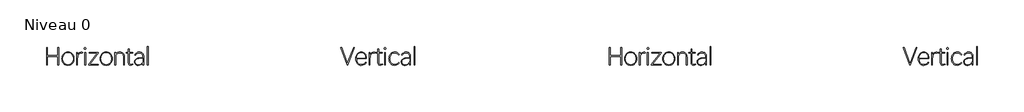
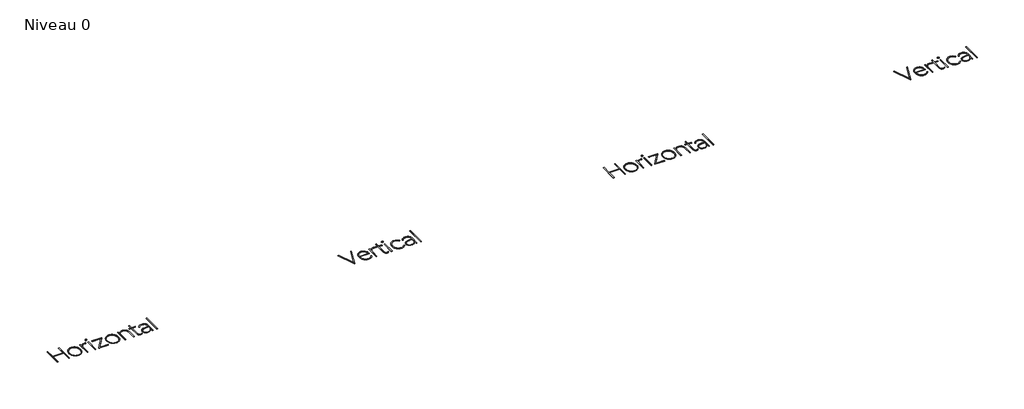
# One storey, part 10 of 11: 4 proxies.
"""IFC4 building model written with IfcOpenShell, lengths in millimetres."""

from ifc_helpers import new_model, si_unit, origin, origin_with_axes, place, context, project, spatial, polyline, outline, extrude, element, save

model = new_model("IFC4")

# Units and contexts
model_context = context("Model", 3, world=origin())
ifc_project = project(units=[si_unit("LENGTHUNIT", "METRE", prefix="MILLI")], contexts=[model_context])

# Site, building, storey
site = spatial("IfcSite", under=ifc_project)
building = spatial("IfcBuilding", under=site)
storey = spatial("IfcBuildingStorey", under=building, Name="Niveau 0", Elevation=0.0)

# Proxies
placement = place(None, origin())
element("IfcBuildingElementProxy", 1, Name="5 mm", ObjectType="5 mm", at=placement, inside=storey, context=model_context, shape_type="SweptSolid", body=[
    extrude(outline(polyline([(10912.9490036, 439.16808), (10890.1093285, 439.16808), (10890.1093285, 687.399286), (10587.633894, 687.399286), (10587.633894, 439.16808), (10564.3434358, 439.16808), (10564.3434358, 944.1953702), (10587.633894, 944.1953702), (10587.633894, 709.637917), (10890.1093285, 709.637917), (10890.1093285, 944.1953702), (10912.9490036, 944.1953702), (10912.9490036, 439.16808)])), origin_with_axes(), (0.0, 0.0, 1.0), 10.0),
    extrude(outline(polyline([(11172.9005692, 430.7534628), (11136.5045326, 434.0122487), (11103.7992824, 443.7886063), (11074.7848184, 460.0825358), (11049.4611408, 482.8940369), (11028.9176419, 510.9364999), (11014.2437141, 542.9233147), (11005.4393574, 578.8544812), (11002.5045719, 618.7299996), (11005.5379662, 658.8496921), (11014.6381493, 695.062598), (11029.805121, 727.3687175), (11051.0388815, 755.7680504), (11076.9401249, 778.9082475), (11106.1095456, 795.4369598), (11138.5471434, 805.3541872), (11174.2529184, 808.6599296), (11210.484607, 805.3447958), (11242.9973353, 795.3993945), (11271.7911034, 778.8237257), (11296.8659112, 755.6177893), (11317.1793229, 727.2184564), (11331.6889028, 695.062598), (11340.3946506, 659.1502141), (11343.2965666, 619.4813047), (11340.3570854, 579.7043951), (11331.5386417, 543.7685329), (11316.8412357, 511.6737181), (11296.2648671, 483.4199505), (11270.9177112, 460.3783621), (11241.9079429, 443.9200847), (11209.2355623, 434.0451183), (11172.9005692, 430.7534628)]), holes=[polyline([(11173.6518743, 451.4894836), (11205.4132976, 454.4148779), (11233.8314131, 463.1910606), (11258.9062209, 477.8180318), (11280.637721, 498.2957916), (11298.1900865, 523.4410342), (11310.7274904, 552.0704543), (11318.2499327, 584.1840518), (11320.7574135, 619.7818267), (11318.259324, 655.3702103), (11310.7650556, 687.4556339), (11298.2746083, 716.0380974), (11280.787982, 741.1176009), (11259.1410037, 761.5296214), (11234.1695004, 776.109636), (11205.8734719, 784.8576448), (11174.2529184, 787.7736477), (11142.5478431, 784.8059926), (11113.9982492, 775.9030271), (11088.6041367, 761.0647513), (11066.3655056, 740.2911652), (11048.2872266, 714.8688788), (11035.3741701, 686.0845021), (11027.6263362, 653.938035), (11025.043725, 618.4294775), (11027.5840753, 582.9960506), (11035.2051265, 551.074975), (11047.9068784, 522.6662508), (11065.689331, 497.769878), (11087.6790923, 477.5222055), (11113.0027699, 463.0595822), (11141.6603639, 454.3820083), (11173.6518743, 451.4894836)])]), origin_with_axes(), (0.0, 0.0, 1.0), 10.0),
    extrude(outline(polyline([(11582.3618504, 779.6595526), (11564.931572, 785.5948629), (11547.5012936, 787.1726037), (11525.9623154, 784.5195575), (11506.4236871, 776.5604191), (11488.8854086, 763.2951884), (11473.3474799, 744.7238653), (11460.6269454, 721.1563634), (11451.5408493, 692.9025959), (11446.0891917, 659.9625628), (11444.2719724, 622.3362641), (11444.2719724, 439.16808), (11422.7846465, 439.16808), (11422.7846465, 799.7945294), (11444.2719724, 799.7945294), (11444.2719724, 720.1561885), (11461.3453809, 757.045269), (11484.7673175, 784.4679053), (11514.2748254, 801.4849659), (11548.5531207, 807.1573194), (11569.2891416, 805.4293177), (11590.7764675, 798.7427023), (11582.3618504, 779.6595526)])), origin_with_axes(), (0.0, 0.0, 1.0), 10.0),
    extrude(outline(polyline([(11662.4509743, 887.8474875), (11653.3414, 889.4252282), (11645.8471316, 894.1584503), (11640.83217, 901.4461098), (11639.1605162, 910.6871626), (11640.83217, 919.946998), (11645.8471316, 927.2910054), (11653.3414, 932.0805754), (11662.4509743, 933.6770988), (11672.1052449, 932.0805754), (11679.4304697, 927.2910054), (11684.0509961, 919.946998), (11685.5911715, 910.6871626), (11684.0509961, 901.4461098), (11679.4304697, 894.1584503), (11672.1052449, 889.4252282), (11662.4509743, 887.8474875)])), origin_with_axes(), (0.0, 0.0, 1.0), 10.0),
    extrude(outline(polyline([(11673.7205509, 439.16808), (11651.7824419, 439.16808), (11651.7824419, 799.7945294), (11673.7205509, 799.7945294), (11673.7205509, 439.16808)])), origin_with_axes(), (0.0, 0.0, 1.0), 10.0),
    extrude(outline(polyline([(12040.8082242, 786.4212986), (11792.5770182, 459.9041008), (12037.9532648, 459.9041008), (12037.9532648, 439.16808), (11760.1206377, 439.16808), (11760.1206377, 453.2926159), (12008.5021048, 779.0585086), (11772.1415194, 779.0585086), (11772.1415194, 799.7945294), (12040.8082242, 799.7945294), (12040.8082242, 786.4212986)])), origin_with_axes(), (0.0, 0.0, 1.0), 10.0),
    extrude(outline(polyline([(12259.5882702, 430.7534628), (12223.1922336, 434.0122487), (12190.4869834, 443.7886063), (12161.4725194, 460.0825358), (12136.1488418, 482.8940369), (12115.6053429, 510.9364999), (12100.9314151, 542.9233147), (12092.1270584, 578.8544812), (12089.1922729, 618.7299996), (12092.2256672, 658.8496921), (12101.3258503, 695.062598), (12116.492822, 727.3687175), (12137.7265825, 755.7680504), (12163.6278259, 778.9082475), (12192.7972466, 795.4369598), (12225.2348444, 805.3541872), (12260.9406194, 808.6599296), (12297.172308, 805.3447958), (12329.6850363, 795.3993945), (12358.4788044, 778.8237257), (12383.5536122, 755.6177893), (12403.8670239, 727.2184564), (12418.3766037, 695.062598), (12427.0823516, 659.1502141), (12429.9842676, 619.4813047), (12427.0447864, 579.7043951), (12418.2263427, 543.7685329), (12403.5289366, 511.6737181), (12382.9525681, 483.4199505), (12357.6054122, 460.3783621), (12328.5956439, 443.9200847), (12295.9232633, 434.0451183), (12259.5882702, 430.7534628)]), holes=[polyline([(12260.3395753, 451.4894836), (12292.1009986, 454.4148779), (12320.5191141, 463.1910606), (12345.5939219, 477.8180318), (12367.325422, 498.2957916), (12384.8777875, 523.4410342), (12397.4151914, 552.0704543), (12404.9376337, 584.1840518), (12407.4451145, 619.7818267), (12404.947025, 655.3702103), (12397.4527566, 687.4556339), (12384.9623093, 716.0380974), (12367.475683, 741.1176009), (12345.8287047, 761.5296214), (12320.8572014, 776.109636), (12292.5611729, 784.8576448), (12260.9406194, 787.7736477), (12229.2355441, 784.8059926), (12200.6859501, 775.9030271), (12175.2918377, 761.0647513), (12153.0532066, 740.2911652), (12134.9749276, 714.8688788), (12122.0618711, 686.0845021), (12114.3140372, 653.938035), (12111.7314259, 618.4294775), (12114.2717763, 582.9960506), (12121.8928275, 551.074975), (12134.5945794, 522.6662508), (12152.377032, 497.769878), (12174.3667933, 477.5222055), (12199.6904709, 463.0595822), (12228.3480649, 454.3820083), (12260.3395753, 451.4894836)])]), origin_with_axes(), (0.0, 0.0, 1.0), 10.0),
    extrude(outline(polyline([(12776.7867031, 439.16808), (12755.2993772, 439.16808), (12755.2993772, 663.8083058), (12753.5807668, 691.6112902), (12748.4249355, 716.1179235), (12739.8318834, 737.3282057), (12727.8016104, 755.2421368), (12712.7097692, 769.4746728), (12694.9320122, 779.64077), (12674.4683394, 785.7404283), (12651.3187509, 787.7736477), (12626.0185516, 785.5948629), (12603.1600938, 779.0585086), (12582.7433777, 768.1645846), (12564.7684031, 752.913091), (12550.1085622, 734.2713331), (12539.6372474, 713.2066163), (12533.3544584, 689.7189405), (12531.2601955, 663.8083058), (12531.2601955, 439.16808), (12509.4723475, 439.16808), (12509.4723475, 799.7945294), (12531.2601955, 799.7945294), (12531.2601955, 738.187511), (12553.4424786, 768.3148456), (12580.7712018, 790.4783461), (12613.9225394, 804.1145337), (12652.5208391, 808.6599296), (12680.3942584, 806.2698403), (12704.9619353, 799.0995722), (12726.2238697, 787.1491254), (12744.1800617, 770.4184999), (12758.4454673, 749.546305), (12768.6350428, 725.17115), (12774.748788, 697.2930351), (12776.7867031, 665.91196), (12776.7867031, 439.16808)])), origin_with_axes(), (0.0, 0.0, 1.0), 10.0),
    extrude(outline(polyline([(13022.7639939, 456.7486194), (12993.0874423, 437.8908613), (12960.4056703, 432.105812), (12930.7854666, 437.045643), (12919.1167592, 443.2204319), (12909.5423148, 451.8651362), (12896.7513455, 476.5267262), (12892.487689, 510.9928478), (12892.487689, 779.6595526), (12826.3728399, 779.6595526), (12826.3728399, 799.7945294), (12892.487689, 799.7945294), (12892.487689, 896.7128877), (12914.275537, 900.4694132), (12914.275537, 799.7945294), (13012.5462445, 799.7945294), (13012.5462445, 779.6595526), (12914.275537, 779.6595526), (12914.275537, 512.495458), (12917.2807574, 485.9931705), (12926.2964186, 467.1917603), (12941.2098249, 455.9785316), (12961.9082805, 452.2407887), (12986.7013489, 456.9740109), (13010.1420681, 472.6762875), (13022.7639939, 456.7486194)])), origin_with_axes(), (0.0, 0.0, 1.0), 10.0),
    extrude(outline(polyline([(13327.0425606, 439.16808), (13305.1044516, 439.16808), (13305.1044516, 508.5886715), (13282.2835591, 477.447075), (13252.1374418, 452.5413108), (13215.9057532, 436.2004248), (13175.8799738, 430.7534628), (13151.1432533, 432.5143341), (13129.374188, 437.7969481), (13110.5727778, 446.6013048), (13094.7390227, 458.9274042), (13082.1828362, 474.0051584), (13073.2141315, 491.0644799), (13067.8329087, 510.1053686), (13066.0391678, 531.1278246), (13067.9972567, 552.6198462), (13073.8715235, 572.0176048), (13083.6619681, 589.3211004), (13097.3685906, 604.5303331), (13115.263739, 617.5138244), (13137.6197615, 628.140096), (13164.436658, 636.4091478), (13195.7144286, 642.3209798), (13305.5552346, 657.7978649), (13305.5552346, 678.9846688), (13303.8272329, 704.1158245), (13298.6432277, 726.0163683), (13290.003219, 744.6863001), (13277.9072068, 760.12562), (13262.8623221, 772.2216321), (13245.3756959, 780.8616408), (13225.447328, 786.045646), (13203.0772186, 787.7736477), (13169.5502284, 783.5475565), (13140.1929815, 770.8692829), (13115.2308694, 749.9266532), (13094.8892837, 720.9074936), (13074.904568, 732.1770701), (13099.4722449, 765.0278858), (13129.5995795, 789.0508664), (13164.422571, 803.7576638), (13203.0772186, 808.6599296), (13229.9645499, 806.5562753), (13253.9781393, 800.2453125), (13275.1179866, 789.727041), (13293.384092, 775.001461), (13308.109672, 756.3597031), (13318.6279434, 734.0928981), (13324.9389063, 708.201046), (13327.0425606, 678.6841468), (13327.0425606, 439.16808)]), holes=[polyline([(13305.1044516, 579.6621342), (13305.1044516, 637.0618441), (13198.4191269, 622.6367861), (13149.2837732, 611.2920791), (13130.3508846, 602.8586793), (13115.1745215, 592.584582), (13103.5386837, 580.3852654), (13095.227371, 566.1762076), (13090.2405834, 549.9574087), (13088.5783209, 531.7288686), (13090.0856267, 514.0591118), (13094.6075443, 498.3145742), (13102.1440736, 484.4952559), (13112.6952147, 472.601157), (13125.8007931, 463.0361039), (13141.0006344, 456.2039232), (13177.6831061, 450.7381785), (13202.7250443, 453.0625287), (13226.0108068, 460.0355792), (13247.5403937, 471.65733), (13267.3138049, 487.9277811), (13283.8472128, 507.6072792), (13295.6567899, 529.4561707), (13302.7425361, 553.4744557), (13305.1044516, 579.6621342)])]), origin_with_axes(), (0.0, 0.0, 1.0), 10.0),
    extrude(outline(polyline([(13432.6760581, 439.16808), (13432.6760581, 973.0454862), (13454.463906, 973.0454862), (13454.463906, 439.16808), (13432.6760581, 439.16808)])), origin_with_axes(), (0.0, 0.0, 1.0), 10.0),
])
element("IfcBuildingElementProxy", 2, Name="5 mm", ObjectType="5 mm", at=placement, inside=storey, context=model_context, shape_type="SweptSolid", body=[
    extrude(outline(polyline([(19322.3893458, 944.1953702), (19129.7547174, 439.16808), (19113.5265272, 439.16808), (18929.0059939, 944.1953702), (18954.2498454, 944.1953702), (19107.2155643, 523.7650346), (19115.1042679, 501.301012), (19121.9411443, 480.7903827), (19130.0552395, 500.3994458), (19138.4698566, 524.0655566), (19298.0470605, 944.1953702), (19322.3893458, 944.1953702)])), origin_with_axes(), (0.0, 0.0, 1.0), 10.0),
    extrude(outline(polyline([(19657.3211607, 626.2430506), (19381.89271, 626.2430506), (19383.7568858, 585.0104874), (19390.4012403, 549.3657559), (19401.8257735, 519.3088562), (19418.0304854, 494.8397881), (19438.1983318, 475.8552473), (19461.5122683, 462.2519292), (19487.9722949, 454.029834), (19517.5784116, 451.1889616), (19553.7913176, 455.4150528), (19585.7969149, 468.0933264), (19612.8063334, 489.2237824), (19634.0307026, 518.8064209), (19653.1138522, 508.5886715), (19628.9218279, 474.7611592), (19597.8177966, 450.212265), (19560.477933, 435.280076), (19517.5784116, 430.3026797), (19483.4081164, 433.4910308), (19452.8722596, 442.6053008), (19425.9708412, 457.6454898), (19402.7038613, 478.6115979), (19383.9353207, 505.8511035), (19370.5292203, 539.7114854), (19362.48556, 580.1927434), (19359.80434, 627.2948777), (19362.5841688, 666.2923082), (19370.9236555, 701.2420825), (19384.8227999, 732.1442005), (19404.2816021, 758.9986623), (19428.0416259, 780.7254668), (19454.8444355, 796.2446128), (19484.6900307, 805.5561004), (19517.5784116, 808.6599296), (19548.926617, 805.8190572), (19576.5558622, 797.2964399), (19600.4661471, 783.0920778), (19620.6574717, 763.2059709), (19636.6978357, 737.9292498), (19648.1552385, 707.5530454), (19655.0296802, 672.0773575), (19657.3211607, 631.5021863), (19657.3211607, 626.2430506)]), holes=[polyline([(19635.0825297, 646.5282884), (19632.518701, 679.3274518), (19626.1795642, 707.8535674), (19616.0651193, 732.1066353), (19602.1753662, 752.0866554), (19585.0080446, 767.6997145), (19565.0608941, 778.8518997), (19542.3339147, 785.5432107), (19516.8271065, 787.7736477), (19490.2356015, 785.4868628), (19466.0576641, 778.6265081), (19444.2932944, 767.1925836), (19424.9424924, 751.1850892), (19408.7096065, 730.9233297), (19396.2989853, 706.7266098), (19387.7106289, 678.5949293), (19382.9445371, 646.5282884), (19635.0825297, 646.5282884)])]), origin_with_axes(), (0.0, 0.0, 1.0), 10.0),
    extrude(outline(polyline([(19901.1947972, 779.6595526), (19883.7645188, 785.5948629), (19866.3342404, 787.1726037), (19844.7952622, 784.5195575), (19825.2566339, 776.5604191), (19807.7183554, 763.2951884), (19792.1804267, 744.7238653), (19779.4598922, 721.1563634), (19770.3737961, 692.9025959), (19764.9221385, 659.9625628), (19763.1049193, 622.3362641), (19763.1049193, 439.16808), (19741.6175933, 439.16808), (19741.6175933, 799.7945294), (19763.1049193, 799.7945294), (19763.1049193, 720.1561885), (19780.1783277, 757.045269), (19803.6002643, 784.4679053), (19833.1077722, 801.4849659), (19867.3860675, 807.1573194), (19888.1220884, 805.4293177), (19909.6094143, 798.7427023), (19901.1947972, 779.6595526)])), origin_with_axes(), (0.0, 0.0, 1.0), 10.0),
    extrude(outline(polyline([(20120.2753652, 456.7486194), (20090.5988137, 437.8908613), (20057.9170417, 432.105812), (20028.296838, 437.045643), (20016.6281306, 443.2204319), (20007.0536862, 451.8651362), (19994.2627168, 476.5267262), (19989.9990604, 510.9928478), (19989.9990604, 779.6595526), (19923.8842113, 779.6595526), (19923.8842113, 799.7945294), (19989.9990604, 799.7945294), (19989.9990604, 896.7128877), (20011.7869083, 900.4694132), (20011.7869083, 799.7945294), (20110.0576158, 799.7945294), (20110.0576158, 779.6595526), (20011.7869083, 779.6595526), (20011.7869083, 512.495458), (20014.7921288, 485.9931705), (20023.80779, 467.1917603), (20038.7211963, 455.9785316), (20059.4196519, 452.2407887), (20084.2127203, 456.9740109), (20107.6534395, 472.6762875), (20120.2753652, 456.7486194)])), origin_with_axes(), (0.0, 0.0, 1.0), 10.0),
    extrude(outline(polyline([(20192.8514382, 887.8474875), (20183.7418638, 889.4252282), (20176.2475954, 894.1584503), (20171.2326338, 901.4461098), (20169.56098, 910.6871626), (20171.2326338, 919.946998), (20176.2475954, 927.2910054), (20183.7418638, 932.0805754), (20192.8514382, 933.6770988), (20202.5057087, 932.0805754), (20209.8309335, 927.2910054), (20214.4514599, 919.946998), (20215.9916353, 910.6871626), (20214.4514599, 901.4461098), (20209.8309335, 894.1584503), (20202.5057087, 889.4252282), (20192.8514382, 887.8474875)])), origin_with_axes(), (0.0, 0.0, 1.0), 10.0),
    extrude(outline(polyline([(20204.1210147, 439.16808), (20182.1829057, 439.16808), (20182.1829057, 799.7945294), (20204.1210147, 799.7945294), (20204.1210147, 439.16808)])), origin_with_axes(), (0.0, 0.0, 1.0), 10.0),
    extrude(outline(polyline([(20594.7996683, 497.920139), (20570.1568609, 469.5208061), (20541.3067449, 448.3340022), (20506.6340144, 435.1485977), (20464.5233634, 430.7534628), (20430.7005468, 433.9559008), (20400.0050377, 443.5632148), (20372.4368361, 459.5754048), (20347.9959419, 481.9924708), (20327.9783566, 509.7531944), (20313.6800814, 541.796357), (20305.1011162, 578.1219588), (20302.2414612, 618.7299996), (20305.2091163, 660.1926499), (20314.1120818, 697.1286871), (20328.9503576, 729.538111), (20349.7239437, 757.4209216), (20375.0335343, 779.8379876), (20403.4798238, 795.8501776), (20435.0628121, 805.4574916), (20469.7824991, 808.6599296), (20507.2914064, 804.5089689), (20540.7808314, 792.0560868), (20569.8375562, 771.4139791), (20594.0483632, 742.6953416), (20576.9186068, 730.8247209), (20554.7551063, 757.1579648), (20529.1356023, 774.8512), (20500.5484431, 784.8811231), (20469.4819771, 788.2244308), (20439.3217729, 785.3929497), (20411.9507888, 776.8985064), (20387.369025, 762.7411008), (20365.5764814, 742.9207331), (20347.7282895, 718.151143), (20334.979581, 689.1460704), (20327.330356, 655.9055152), (20324.7806143, 618.4294775), (20327.2646168, 582.3245717), (20334.7166242, 550.0419305), (20347.1366367, 521.5815541), (20364.5246542, 496.9434424), (20385.7255451, 477.0573354), (20409.5841778, 462.8529733), (20436.1005522, 454.3303561), (20465.2746685, 451.4894836), (20500.4733126, 455.1896613), (20530.0371684, 466.2901942), (20555.2810199, 484.7910823), (20577.5196509, 510.6923258), (20594.7996683, 497.920139)])), origin_with_axes(), (0.0, 0.0, 1.0), 10.0),
    extrude(outline(polyline([(20915.0059032, 439.16808), (20893.0677942, 439.16808), (20893.0677942, 508.5886715), (20870.2469017, 477.447075), (20840.1007844, 452.5413108), (20803.8690958, 436.2004248), (20763.8433165, 430.7534628), (20739.1065959, 432.5143341), (20717.3375306, 437.7969481), (20698.5361204, 446.6013048), (20682.7023653, 458.9274042), (20670.1461788, 474.0051584), (20661.1774741, 491.0644799), (20655.7962513, 510.1053686), (20654.0025104, 531.1278246), (20655.9605993, 552.6198462), (20661.8348661, 572.0176048), (20671.6253107, 589.3211004), (20685.3319332, 604.5303331), (20703.2270816, 617.5138244), (20725.5831041, 628.140096), (20752.4000006, 636.4091478), (20783.6777712, 642.3209798), (20893.5185772, 657.7978649), (20893.5185772, 678.9846688), (20891.7905755, 704.1158245), (20886.6065703, 726.0163683), (20877.9665616, 744.6863001), (20865.8705494, 760.12562), (20850.8256648, 772.2216321), (20833.3390385, 780.8616408), (20813.4106706, 786.045646), (20791.0405612, 787.7736477), (20757.513571, 783.5475565), (20728.1563241, 770.8692829), (20703.194212, 749.9266532), (20682.8526264, 720.9074936), (20662.8679106, 732.1770701), (20687.4355875, 765.0278858), (20717.5629221, 789.0508664), (20752.3859136, 803.7576638), (20791.0405612, 808.6599296), (20817.9278926, 806.5562753), (20841.9414819, 800.2453125), (20863.0813293, 789.727041), (20881.3474346, 775.001461), (20896.0730146, 756.3597031), (20906.591286, 734.0928981), (20912.9022489, 708.201046), (20915.0059032, 678.6841468), (20915.0059032, 439.16808)]), holes=[polyline([(20893.0677942, 579.6621342), (20893.0677942, 637.0618441), (20786.3824695, 622.6367861), (20737.2471158, 611.2920791), (20718.3142272, 602.8586793), (20703.1378641, 592.584582), (20691.5020264, 580.3852654), (20683.1907136, 566.1762076), (20678.203926, 549.9574087), (20676.5416635, 531.7288686), (20678.0489694, 514.0591118), (20682.5708869, 498.3145742), (20690.1074163, 484.4952559), (20700.6585573, 472.601157), (20713.7641357, 463.0361039), (20728.963977, 456.2039232), (20765.6464487, 450.7381785), (20790.6883869, 453.0625287), (20813.9741495, 460.0355792), (20835.5037363, 471.65733), (20855.2771475, 487.9277811), (20871.8105554, 507.6072792), (20883.6201325, 529.4561707), (20890.7058788, 553.4744557), (20893.0677942, 579.6621342)])]), origin_with_axes(), (0.0, 0.0, 1.0), 10.0),
    extrude(outline(polyline([(21020.6394007, 439.16808), (21020.6394007, 973.0454862), (21042.4272487, 973.0454862), (21042.4272487, 439.16808), (21020.6394007, 439.16808)])), origin_with_axes(), (0.0, 0.0, 1.0), 10.0),
])
element("IfcBuildingElementProxy", 3, Name="5 mm", ObjectType="5 mm", at=placement, inside=storey, context=model_context, shape_type="SweptSolid", body=[
    extrude(outline(polyline([(26917.9490036, 439.16808), (26895.1093285, 439.16808), (26895.1093285, 687.399286), (26592.633894, 687.399286), (26592.633894, 439.16808), (26569.3434358, 439.16808), (26569.3434358, 944.1953702), (26592.633894, 944.1953702), (26592.633894, 709.637917), (26895.1093285, 709.637917), (26895.1093285, 944.1953702), (26917.9490036, 944.1953702), (26917.9490036, 439.16808)])), origin_with_axes(), (0.0, 0.0, 1.0), 10.0),
    extrude(outline(polyline([(27177.9005692, 430.7534628), (27141.5045326, 434.0122487), (27108.7992824, 443.7886063), (27079.7848184, 460.0825358), (27054.4611408, 482.8940369), (27033.9176419, 510.9364999), (27019.2437141, 542.9233147), (27010.4393574, 578.8544812), (27007.5045719, 618.7299996), (27010.5379662, 658.8496921), (27019.6381493, 695.062598), (27034.805121, 727.3687175), (27056.0388815, 755.7680504), (27081.9401249, 778.9082475), (27111.1095456, 795.4369598), (27143.5471434, 805.3541872), (27179.2529184, 808.6599296), (27215.484607, 805.3447958), (27247.9973353, 795.3993945), (27276.7911034, 778.8237257), (27301.8659112, 755.6177893), (27322.1793229, 727.2184564), (27336.6889028, 695.062598), (27345.3946506, 659.1502141), (27348.2965666, 619.4813047), (27345.3570854, 579.7043951), (27336.5386417, 543.7685329), (27321.8412357, 511.6737181), (27301.2648671, 483.4199505), (27275.9177112, 460.3783621), (27246.9079429, 443.9200847), (27214.2355623, 434.0451183), (27177.9005692, 430.7534628)]), holes=[polyline([(27178.6518743, 451.4894836), (27210.4132976, 454.4148779), (27238.8314131, 463.1910606), (27263.9062209, 477.8180318), (27285.637721, 498.2957916), (27303.1900865, 523.4410342), (27315.7274904, 552.0704543), (27323.2499327, 584.1840518), (27325.7574135, 619.7818267), (27323.259324, 655.3702103), (27315.7650556, 687.4556339), (27303.2746083, 716.0380974), (27285.787982, 741.1176009), (27264.1410037, 761.5296214), (27239.1695004, 776.109636), (27210.8734719, 784.8576448), (27179.2529184, 787.7736477), (27147.5478431, 784.8059926), (27118.9982492, 775.9030271), (27093.6041367, 761.0647513), (27071.3655056, 740.2911652), (27053.2872266, 714.8688788), (27040.3741701, 686.0845021), (27032.6263362, 653.938035), (27030.043725, 618.4294775), (27032.5840753, 582.9960506), (27040.2051265, 551.074975), (27052.9068784, 522.6662508), (27070.689331, 497.769878), (27092.6790923, 477.5222055), (27118.0027699, 463.0595822), (27146.6603639, 454.3820083), (27178.6518743, 451.4894836)])]), origin_with_axes(), (0.0, 0.0, 1.0), 10.0),
    extrude(outline(polyline([(27587.3618504, 779.6595526), (27569.931572, 785.5948629), (27552.5012936, 787.1726037), (27530.9623154, 784.5195575), (27511.4236871, 776.5604191), (27493.8854086, 763.2951884), (27478.3474799, 744.7238653), (27465.6269454, 721.1563634), (27456.5408493, 692.9025959), (27451.0891917, 659.9625628), (27449.2719724, 622.3362641), (27449.2719724, 439.16808), (27427.7846465, 439.16808), (27427.7846465, 799.7945294), (27449.2719724, 799.7945294), (27449.2719724, 720.1561885), (27466.3453809, 757.045269), (27489.7673175, 784.4679053), (27519.2748254, 801.4849659), (27553.5531207, 807.1573194), (27574.2891416, 805.4293177), (27595.7764675, 798.7427023), (27587.3618504, 779.6595526)])), origin_with_axes(), (0.0, 0.0, 1.0), 10.0),
    extrude(outline(polyline([(27667.4509743, 887.8474875), (27658.3414, 889.4252282), (27650.8471316, 894.1584503), (27645.83217, 901.4461098), (27644.1605162, 910.6871626), (27645.83217, 919.946998), (27650.8471316, 927.2910054), (27658.3414, 932.0805754), (27667.4509743, 933.6770988), (27677.1052449, 932.0805754), (27684.4304697, 927.2910054), (27689.0509961, 919.946998), (27690.5911715, 910.6871626), (27689.0509961, 901.4461098), (27684.4304697, 894.1584503), (27677.1052449, 889.4252282), (27667.4509743, 887.8474875)])), origin_with_axes(), (0.0, 0.0, 1.0), 10.0),
    extrude(outline(polyline([(27678.7205509, 439.16808), (27656.7824419, 439.16808), (27656.7824419, 799.7945294), (27678.7205509, 799.7945294), (27678.7205509, 439.16808)])), origin_with_axes(), (0.0, 0.0, 1.0), 10.0),
    extrude(outline(polyline([(28045.8082242, 786.4212986), (27797.5770182, 459.9041008), (28042.9532648, 459.9041008), (28042.9532648, 439.16808), (27765.1206377, 439.16808), (27765.1206377, 453.2926159), (28013.5021048, 779.0585086), (27777.1415194, 779.0585086), (27777.1415194, 799.7945294), (28045.8082242, 799.7945294), (28045.8082242, 786.4212986)])), origin_with_axes(), (0.0, 0.0, 1.0), 10.0),
    extrude(outline(polyline([(28264.5882702, 430.7534628), (28228.1922336, 434.0122487), (28195.4869834, 443.7886063), (28166.4725194, 460.0825358), (28141.1488418, 482.8940369), (28120.6053429, 510.9364999), (28105.9314151, 542.9233147), (28097.1270584, 578.8544812), (28094.1922729, 618.7299996), (28097.2256672, 658.8496921), (28106.3258503, 695.062598), (28121.492822, 727.3687175), (28142.7265825, 755.7680504), (28168.6278259, 778.9082475), (28197.7972466, 795.4369598), (28230.2348444, 805.3541872), (28265.9406194, 808.6599296), (28302.172308, 805.3447958), (28334.6850363, 795.3993945), (28363.4788044, 778.8237257), (28388.5536122, 755.6177893), (28408.8670239, 727.2184564), (28423.3766037, 695.062598), (28432.0823516, 659.1502141), (28434.9842676, 619.4813047), (28432.0447864, 579.7043951), (28423.2263427, 543.7685329), (28408.5289366, 511.6737181), (28387.9525681, 483.4199505), (28362.6054122, 460.3783621), (28333.5956439, 443.9200847), (28300.9232633, 434.0451183), (28264.5882702, 430.7534628)]), holes=[polyline([(28265.3395753, 451.4894836), (28297.1009986, 454.4148779), (28325.5191141, 463.1910606), (28350.5939219, 477.8180318), (28372.325422, 498.2957916), (28389.8777875, 523.4410342), (28402.4151914, 552.0704543), (28409.9376337, 584.1840518), (28412.4451145, 619.7818267), (28409.947025, 655.3702103), (28402.4527566, 687.4556339), (28389.9623093, 716.0380974), (28372.475683, 741.1176009), (28350.8287047, 761.5296214), (28325.8572014, 776.109636), (28297.5611729, 784.8576448), (28265.9406194, 787.7736477), (28234.2355441, 784.8059926), (28205.6859501, 775.9030271), (28180.2918377, 761.0647513), (28158.0532066, 740.2911652), (28139.9749276, 714.8688788), (28127.0618711, 686.0845021), (28119.3140372, 653.938035), (28116.7314259, 618.4294775), (28119.2717763, 582.9960506), (28126.8928275, 551.074975), (28139.5945794, 522.6662508), (28157.377032, 497.769878), (28179.3667933, 477.5222055), (28204.6904709, 463.0595822), (28233.3480649, 454.3820083), (28265.3395753, 451.4894836)])]), origin_with_axes(), (0.0, 0.0, 1.0), 10.0),
    extrude(outline(polyline([(28781.7867031, 439.16808), (28760.2993772, 439.16808), (28760.2993772, 663.8083058), (28758.5807668, 691.6112902), (28753.4249355, 716.1179235), (28744.8318834, 737.3282057), (28732.8016104, 755.2421368), (28717.7097692, 769.4746728), (28699.9320122, 779.64077), (28679.4683394, 785.7404283), (28656.3187509, 787.7736477), (28631.0185516, 785.5948629), (28608.1600938, 779.0585086), (28587.7433777, 768.1645846), (28569.7684031, 752.913091), (28555.1085622, 734.2713331), (28544.6372474, 713.2066163), (28538.3544584, 689.7189405), (28536.2601955, 663.8083058), (28536.2601955, 439.16808), (28514.4723475, 439.16808), (28514.4723475, 799.7945294), (28536.2601955, 799.7945294), (28536.2601955, 738.1875109), (28558.4424786, 768.3148456), (28585.7712018, 790.4783461), (28618.9225394, 804.1145337), (28657.5208391, 808.6599296), (28685.3942584, 806.2698403), (28709.9619353, 799.0995722), (28731.2238697, 787.1491254), (28749.1800617, 770.4184999), (28763.4454673, 749.546305), (28773.6350428, 725.17115), (28779.748788, 697.2930351), (28781.7867031, 665.91196), (28781.7867031, 439.16808)])), origin_with_axes(), (0.0, 0.0, 1.0), 10.0),
    extrude(outline(polyline([(29027.7639939, 456.7486194), (28998.0874423, 437.8908613), (28965.4056703, 432.105812), (28935.7854666, 437.045643), (28924.1167592, 443.2204319), (28914.5423148, 451.8651362), (28901.7513455, 476.5267262), (28897.487689, 510.9928478), (28897.487689, 779.6595526), (28831.3728399, 779.6595526), (28831.3728399, 799.7945294), (28897.487689, 799.7945294), (28897.487689, 896.7128877), (28919.275537, 900.4694132), (28919.275537, 799.7945294), (29017.5462445, 799.7945294), (29017.5462445, 779.6595526), (28919.275537, 779.6595526), (28919.275537, 512.495458), (28922.2807574, 485.9931705), (28931.2964186, 467.1917603), (28946.2098249, 455.9785316), (28966.9082805, 452.2407887), (28991.7013489, 456.9740109), (29015.1420681, 472.6762875), (29027.7639939, 456.7486194)])), origin_with_axes(), (0.0, 0.0, 1.0), 10.0),
    extrude(outline(polyline([(29332.0425606, 439.16808), (29310.1044516, 439.16808), (29310.1044516, 508.5886715), (29287.2835591, 477.447075), (29257.1374418, 452.5413108), (29220.9057532, 436.2004248), (29180.8799738, 430.7534628), (29156.1432533, 432.5143341), (29134.374188, 437.7969481), (29115.5727778, 446.6013048), (29099.7390227, 458.9274042), (29087.1828362, 474.0051584), (29078.2141315, 491.0644799), (29072.8329087, 510.1053686), (29071.0391678, 531.1278246), (29072.9972567, 552.6198462), (29078.8715235, 572.0176048), (29088.6619681, 589.3211004), (29102.3685906, 604.5303331), (29120.263739, 617.5138244), (29142.6197615, 628.140096), (29169.436658, 636.4091478), (29200.7144286, 642.3209798), (29310.5552346, 657.7978649), (29310.5552346, 678.9846688), (29308.8272329, 704.1158245), (29303.6432277, 726.0163683), (29295.003219, 744.6863001), (29282.9072068, 760.12562), (29267.8623221, 772.2216321), (29250.3756959, 780.8616408), (29230.447328, 786.045646), (29208.0772186, 787.7736477), (29174.5502284, 783.5475565), (29145.1929815, 770.8692829), (29120.2308694, 749.9266532), (29099.8892837, 720.9074936), (29079.904568, 732.1770701), (29104.4722449, 765.0278858), (29134.5995795, 789.0508664), (29169.422571, 803.7576638), (29208.0772186, 808.6599296), (29234.9645499, 806.5562753), (29258.9781393, 800.2453125), (29280.1179866, 789.727041), (29298.384092, 775.001461), (29313.109672, 756.3597031), (29323.6279434, 734.0928981), (29329.9389063, 708.201046), (29332.0425606, 678.6841468), (29332.0425606, 439.16808)]), holes=[polyline([(29310.1044516, 579.6621342), (29310.1044516, 637.0618441), (29203.4191269, 622.6367861), (29154.2837732, 611.2920791), (29135.3508846, 602.8586793), (29120.1745215, 592.584582), (29108.5386837, 580.3852654), (29100.227371, 566.1762076), (29095.2405834, 549.9574087), (29093.5783209, 531.7288686), (29095.0856267, 514.0591118), (29099.6075443, 498.3145742), (29107.1440736, 484.4952559), (29117.6952147, 472.601157), (29130.8007931, 463.0361039), (29146.0006344, 456.2039232), (29182.6831061, 450.7381785), (29207.7250443, 453.0625287), (29231.0108068, 460.0355792), (29252.5403937, 471.65733), (29272.3138049, 487.9277811), (29288.8472128, 507.6072792), (29300.6567899, 529.4561707), (29307.7425361, 553.4744557), (29310.1044516, 579.6621342)])]), origin_with_axes(), (0.0, 0.0, 1.0), 10.0),
    extrude(outline(polyline([(29437.6760581, 439.16808), (29437.6760581, 973.0454861), (29459.463906, 973.0454861), (29459.463906, 439.16808), (29437.6760581, 439.16808)])), origin_with_axes(), (0.0, 0.0, 1.0), 10.0),
])
element("IfcBuildingElementProxy", 4, Name="5 mm", ObjectType="5 mm", at=placement, inside=storey, context=model_context, shape_type="SweptSolid", body=[
    extrude(outline(polyline([(35322.3893458, 944.1953702), (35129.7547174, 439.16808), (35113.5265272, 439.16808), (34929.0059939, 944.1953702), (34954.2498454, 944.1953702), (35107.2155643, 523.7650346), (35115.1042679, 501.301012), (35121.9411443, 480.7903827), (35130.0552395, 500.3994458), (35138.4698566, 524.0655566), (35298.0470605, 944.1953702), (35322.3893458, 944.1953702)])), origin_with_axes(), (0.0, 0.0, 1.0), 10.0),
    extrude(outline(polyline([(35657.3211607, 626.2430506), (35381.89271, 626.2430506), (35383.7568858, 585.0104874), (35390.4012403, 549.3657559), (35401.8257735, 519.3088562), (35418.0304854, 494.8397881), (35438.1983318, 475.8552473), (35461.5122683, 462.2519292), (35487.9722949, 454.029834), (35517.5784116, 451.1889616), (35553.7913176, 455.4150528), (35585.7969149, 468.0933264), (35612.8063334, 489.2237824), (35634.0307026, 518.8064209), (35653.1138522, 508.5886715), (35628.9218279, 474.7611592), (35597.8177966, 450.212265), (35560.477933, 435.280076), (35517.5784116, 430.3026797), (35483.4081164, 433.4910308), (35452.8722596, 442.6053008), (35425.9708412, 457.6454898), (35402.7038613, 478.6115979), (35383.9353207, 505.8511035), (35370.5292203, 539.7114854), (35362.48556, 580.1927434), (35359.80434, 627.2948777), (35362.5841688, 666.2923082), (35370.9236555, 701.2420825), (35384.8227999, 732.1442005), (35404.2816021, 758.9986623), (35428.0416259, 780.7254668), (35454.8444355, 796.2446128), (35484.6900307, 805.5561004), (35517.5784116, 808.6599296), (35548.926617, 805.8190572), (35576.5558622, 797.2964399), (35600.4661471, 783.0920778), (35620.6574717, 763.2059709), (35636.6978357, 737.9292498), (35648.1552385, 707.5530454), (35655.0296802, 672.0773575), (35657.3211607, 631.5021863), (35657.3211607, 626.2430506)]), holes=[polyline([(35635.0825297, 646.5282884), (35632.518701, 679.3274518), (35626.1795642, 707.8535674), (35616.0651193, 732.1066353), (35602.1753662, 752.0866554), (35585.0080446, 767.6997145), (35565.0608941, 778.8518997), (35542.3339147, 785.5432107), (35516.8271065, 787.7736477), (35490.2356015, 785.4868628), (35466.0576641, 778.6265081), (35444.2932944, 767.1925836), (35424.9424924, 751.1850892), (35408.7096065, 730.9233297), (35396.2989853, 706.7266098), (35387.7106289, 678.5949293), (35382.9445371, 646.5282884), (35635.0825297, 646.5282884)])]), origin_with_axes(), (0.0, 0.0, 1.0), 10.0),
    extrude(outline(polyline([(35901.1947972, 779.6595526), (35883.7645188, 785.5948629), (35866.3342404, 787.1726037), (35844.7952622, 784.5195575), (35825.2566339, 776.5604191), (35807.7183554, 763.2951884), (35792.1804267, 744.7238653), (35779.4598922, 721.1563634), (35770.3737961, 692.9025959), (35764.9221385, 659.9625628), (35763.1049193, 622.3362641), (35763.1049193, 439.16808), (35741.6175933, 439.16808), (35741.6175933, 799.7945294), (35763.1049193, 799.7945294), (35763.1049193, 720.1561885), (35780.1783277, 757.045269), (35803.6002643, 784.4679053), (35833.1077722, 801.4849659), (35867.3860675, 807.1573194), (35888.1220884, 805.4293177), (35909.6094143, 798.7427023), (35901.1947972, 779.6595526)])), origin_with_axes(), (0.0, 0.0, 1.0), 10.0),
    extrude(outline(polyline([(36120.2753652, 456.7486194), (36090.5988137, 437.8908613), (36057.9170417, 432.105812), (36028.296838, 437.045643), (36016.6281306, 443.2204319), (36007.0536862, 451.8651362), (35994.2627168, 476.5267262), (35989.9990604, 510.9928478), (35989.9990604, 779.6595526), (35923.8842113, 779.6595526), (35923.8842113, 799.7945294), (35989.9990604, 799.7945294), (35989.9990604, 896.7128877), (36011.7869083, 900.4694132), (36011.7869083, 799.7945294), (36110.0576158, 799.7945294), (36110.0576158, 779.6595526), (36011.7869083, 779.6595526), (36011.7869083, 512.495458), (36014.7921288, 485.9931705), (36023.80779, 467.1917603), (36038.7211963, 455.9785316), (36059.4196519, 452.2407887), (36084.2127203, 456.9740109), (36107.6534395, 472.6762875), (36120.2753652, 456.7486194)])), origin_with_axes(), (0.0, 0.0, 1.0), 10.0),
    extrude(outline(polyline([(36192.8514382, 887.8474875), (36183.7418638, 889.4252282), (36176.2475954, 894.1584503), (36171.2326338, 901.4461098), (36169.56098, 910.6871626), (36171.2326338, 919.946998), (36176.2475954, 927.2910054), (36183.7418638, 932.0805754), (36192.8514382, 933.6770988), (36202.5057087, 932.0805754), (36209.8309335, 927.2910054), (36214.4514599, 919.946998), (36215.9916353, 910.6871626), (36214.4514599, 901.4461098), (36209.8309335, 894.1584503), (36202.5057087, 889.4252282), (36192.8514382, 887.8474875)])), origin_with_axes(), (0.0, 0.0, 1.0), 10.0),
    extrude(outline(polyline([(36204.1210147, 439.16808), (36182.1829057, 439.16808), (36182.1829057, 799.7945294), (36204.1210147, 799.7945294), (36204.1210147, 439.16808)])), origin_with_axes(), (0.0, 0.0, 1.0), 10.0),
    extrude(outline(polyline([(36594.7996683, 497.920139), (36570.1568609, 469.5208061), (36541.3067449, 448.3340022), (36506.6340144, 435.1485977), (36464.5233634, 430.7534628), (36430.7005468, 433.9559008), (36400.0050377, 443.5632148), (36372.4368361, 459.5754048), (36347.9959419, 481.9924708), (36327.9783566, 509.7531944), (36313.6800814, 541.796357), (36305.1011162, 578.1219588), (36302.2414612, 618.7299996), (36305.2091163, 660.1926499), (36314.1120818, 697.1286871), (36328.9503576, 729.538111), (36349.7239437, 757.4209216), (36375.0335343, 779.8379876), (36403.4798238, 795.8501776), (36435.0628121, 805.4574916), (36469.7824991, 808.6599296), (36507.2914064, 804.5089689), (36540.7808314, 792.0560868), (36569.8375562, 771.4139791), (36594.0483632, 742.6953416), (36576.9186068, 730.8247209), (36554.7551063, 757.1579648), (36529.1356023, 774.8512), (36500.5484431, 784.8811231), (36469.4819771, 788.2244308), (36439.3217729, 785.3929497), (36411.9507888, 776.8985064), (36387.369025, 762.7411008), (36365.5764814, 742.9207331), (36347.7282895, 718.151143), (36334.979581, 689.1460704), (36327.330356, 655.9055152), (36324.7806143, 618.4294775), (36327.2646168, 582.3245717), (36334.7166242, 550.0419305), (36347.1366367, 521.5815541), (36364.5246542, 496.9434424), (36385.7255451, 477.0573354), (36409.5841778, 462.8529733), (36436.1005522, 454.3303561), (36465.2746685, 451.4894836), (36500.4733126, 455.1896613), (36530.0371684, 466.2901942), (36555.2810199, 484.7910823), (36577.5196509, 510.6923258), (36594.7996683, 497.920139)])), origin_with_axes(), (0.0, 0.0, 1.0), 10.0),
    extrude(outline(polyline([(36915.0059032, 439.16808), (36893.0677942, 439.16808), (36893.0677942, 508.5886715), (36870.2469017, 477.447075), (36840.1007844, 452.5413108), (36803.8690958, 436.2004248), (36763.8433165, 430.7534628), (36739.1065959, 432.5143341), (36717.3375306, 437.7969481), (36698.5361204, 446.6013048), (36682.7023653, 458.9274042), (36670.1461788, 474.0051584), (36661.1774741, 491.0644799), (36655.7962513, 510.1053686), (36654.0025104, 531.1278246), (36655.9605993, 552.6198462), (36661.8348661, 572.0176048), (36671.6253107, 589.3211004), (36685.3319332, 604.5303331), (36703.2270816, 617.5138244), (36725.5831041, 628.140096), (36752.4000006, 636.4091478), (36783.6777712, 642.3209798), (36893.5185772, 657.7978649), (36893.5185772, 678.9846688), (36891.7905755, 704.1158245), (36886.6065703, 726.0163683), (36877.9665616, 744.6863001), (36865.8705494, 760.12562), (36850.8256648, 772.2216321), (36833.3390385, 780.8616408), (36813.4106706, 786.045646), (36791.0405612, 787.7736477), (36757.513571, 783.5475565), (36728.1563241, 770.8692829), (36703.194212, 749.9266532), (36682.8526264, 720.9074936), (36662.8679106, 732.1770701), (36687.4355875, 765.0278858), (36717.5629221, 789.0508664), (36752.3859136, 803.7576638), (36791.0405612, 808.6599296), (36817.9278926, 806.5562753), (36841.9414819, 800.2453125), (36863.0813293, 789.727041), (36881.3474346, 775.001461), (36896.0730146, 756.3597031), (36906.591286, 734.0928981), (36912.9022489, 708.201046), (36915.0059032, 678.6841468), (36915.0059032, 439.16808)]), holes=[polyline([(36893.0677942, 579.6621342), (36893.0677942, 637.0618441), (36786.3824695, 622.6367861), (36737.2471158, 611.2920791), (36718.3142272, 602.8586793), (36703.1378641, 592.584582), (36691.5020264, 580.3852654), (36683.1907136, 566.1762076), (36678.203926, 549.9574087), (36676.5416635, 531.7288686), (36678.0489694, 514.0591118), (36682.5708869, 498.3145742), (36690.1074163, 484.4952559), (36700.6585573, 472.601157), (36713.7641357, 463.0361039), (36728.963977, 456.2039232), (36765.6464487, 450.7381785), (36790.6883869, 453.0625287), (36813.9741495, 460.0355792), (36835.5037363, 471.65733), (36855.2771475, 487.9277811), (36871.8105554, 507.6072792), (36883.6201325, 529.4561707), (36890.7058788, 553.4744557), (36893.0677942, 579.6621342)])]), origin_with_axes(), (0.0, 0.0, 1.0), 10.0),
    extrude(outline(polyline([(37020.6394007, 439.16808), (37020.6394007, 973.0454861), (37042.4272487, 973.0454861), (37042.4272487, 439.16808), (37020.6394007, 439.16808)])), origin_with_axes(), (0.0, 0.0, 1.0), 10.0),
])

save(model, "model.ifc")
